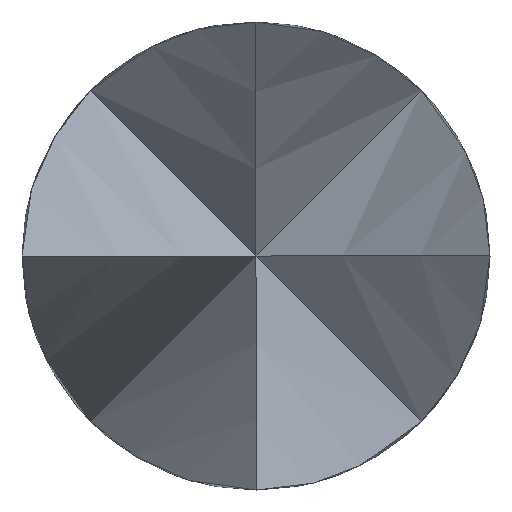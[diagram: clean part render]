
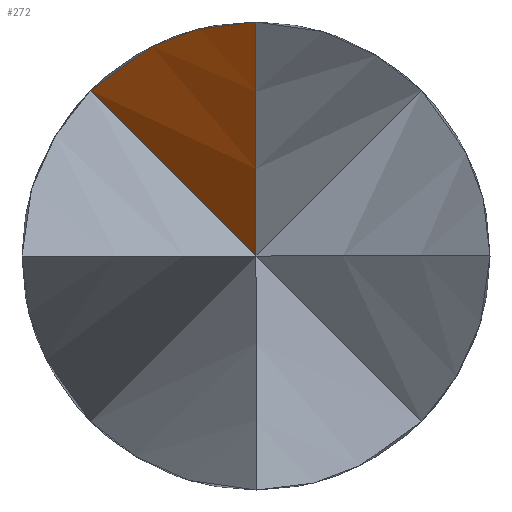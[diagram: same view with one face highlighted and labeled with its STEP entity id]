
A CAD part, left-side view. The second image highlights one B-rep face of the part: STEP entity #272.
In plain terms, the highlighted free-form (B-spline) face has degree [3, 1] with [6, 2] control points.
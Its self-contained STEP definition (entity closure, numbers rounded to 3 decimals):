
#99 = VECTOR ( 'NONE', #546, 1000. ) ;
#114 = CARTESIAN_POINT ( 'NONE',  ( -7.867, 0., 0.76 ) ) ;
#116 = VERTEX_POINT ( 'NONE', #446 ) ;
#119 = VERTEX_POINT ( 'NONE', #114 ) ;
#203 = CARTESIAN_POINT ( 'NONE',  ( -7.156, 0., 0.151 ) ) ;
#207 = CARTESIAN_POINT ( 'NONE',  ( -7.044, 0., 0. ) ) ;
#211 = B_SPLINE_SURFACE_WITH_KNOTS ( 'NONE', 3, 1, ( 
 ( #347, #342 ),
 ( #348, #349 ),
 ( #350, #351 ),
 ( #352, #353 ),
 ( #629, #368 ),
 ( #369, #370 ) ),
 .UNSPECIFIED., .F., .F., .F.,
 ( 4, 2, 4 ),
 ( 2, 2 ),
 ( 0., 0.5, 1. ),
 ( 0., 1. ),
 .UNSPECIFIED. ) ;
#234 = EDGE_CURVE ( 'NONE', #485, #119, #324, .T. ) ;
#238 = EDGE_CURVE ( 'NONE', #116, #485, #539, .T. ) ;
#248 = EDGE_CURVE ( 'NONE', #116, #119, #333, .T. ) ;
#272 = ADVANCED_FACE ( 'NONE', ( #346 ), #211, .F. ) ;
#324 = B_SPLINE_CURVE_WITH_KNOTS ( 'NONE', 3,
 ( #207, #203, #645, #646, #647, #648 ),
 .UNSPECIFIED., .F., .F.,
 ( 4, 2, 4 ),
 ( 0., 0.001, 0.001 ),
 .UNSPECIFIED. ) ;
#333 = B_SPLINE_CURVE_WITH_KNOTS ( 'NONE', 3,
 ( #408, #409, #413, #414, #415, #416 ),
 .UNSPECIFIED., .F., .F.,
 ( 4, 2, 4 ),
 ( 0., 0.001, 0.001 ),
 .UNSPECIFIED. ) ;
#342 = CARTESIAN_POINT ( 'NONE',  ( -7.044, 0., 0. ) ) ;
#346 = FACE_OUTER_BOUND ( 'NONE', #443, .T. ) ;
#347 = CARTESIAN_POINT ( 'NONE',  ( -6.525, 0.537, 0.537 ) ) ;
#348 = CARTESIAN_POINT ( 'NONE',  ( -6.831, 0.448, 0.627 ) ) ;
#349 = CARTESIAN_POINT ( 'NONE',  ( -7.263, -0.09, 0.09 ) ) ;
#350 = CARTESIAN_POINT ( 'NONE',  ( -7.137, 0.358, 0.717 ) ) ;
#351 = CARTESIAN_POINT ( 'NONE',  ( -7.482, -0.179, 0.179 ) ) ;
#352 = CARTESIAN_POINT ( 'NONE',  ( -7.748, 0.179, 0.896 ) ) ;
#353 = CARTESIAN_POINT ( 'NONE',  ( -7.921, -0.358, 0.358 ) ) ;
#368 = CARTESIAN_POINT ( 'NONE',  ( -8.141, -0.448, 0.448 ) ) ;
#369 = CARTESIAN_POINT ( 'NONE',  ( -8.36, 0., 1.075 ) ) ;
#370 = CARTESIAN_POINT ( 'NONE',  ( -8.36, -0.537, 0.537 ) ) ;
#408 = CARTESIAN_POINT ( 'NONE',  ( -6.525, 0.537, 0.537 ) ) ;
#409 = CARTESIAN_POINT ( 'NONE',  ( -6.752, 0.471, 0.604 ) ) ;
#413 = CARTESIAN_POINT ( 'NONE',  ( -6.979, 0.396, 0.656 ) ) ;
#414 = CARTESIAN_POINT ( 'NONE',  ( -7.432, 0.222, 0.733 ) ) ;
#415 = CARTESIAN_POINT ( 'NONE',  ( -7.654, 0.125, 0.76 ) ) ;
#416 = CARTESIAN_POINT ( 'NONE',  ( -7.867, 0., 0.76 ) ) ;
#443 = EDGE_LOOP ( 'NONE', ( #492, #494, #503 ) ) ;
#446 = CARTESIAN_POINT ( 'NONE',  ( -6.525, 0.537, 0.537 ) ) ;
#484 = CARTESIAN_POINT ( 'NONE',  ( -7.044, 0., 0. ) ) ;
#485 = VERTEX_POINT ( 'NONE', #484 ) ;
#492 = ORIENTED_EDGE ( 'NONE', *, *, #238, .T. ) ;
#494 = ORIENTED_EDGE ( 'NONE', *, *, #234, .T. ) ;
#503 = ORIENTED_EDGE ( 'NONE', *, *, #248, .F. ) ;
#539 = LINE ( 'NONE', #545, #99 ) ;
#545 = CARTESIAN_POINT ( 'NONE',  ( -6.784, 0.269, 0.269 ) ) ;
#546 = DIRECTION ( 'NONE',  ( -0.564, -0.584, -0.584 ) ) ;
#629 = CARTESIAN_POINT ( 'NONE',  ( -8.054, 0.09, 0.985 ) ) ;
#645 = CARTESIAN_POINT ( 'NONE',  ( -7.286, 0., 0.286 ) ) ;
#646 = CARTESIAN_POINT ( 'NONE',  ( -7.565, 0., 0.537 ) ) ;
#647 = CARTESIAN_POINT ( 'NONE',  ( -7.714, 0., 0.652 ) ) ;
#648 = CARTESIAN_POINT ( 'NONE',  ( -7.867, 0., 0.76 ) ) ;
